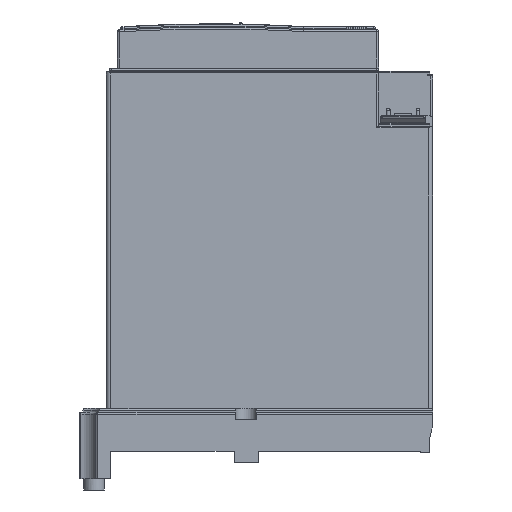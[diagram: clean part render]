
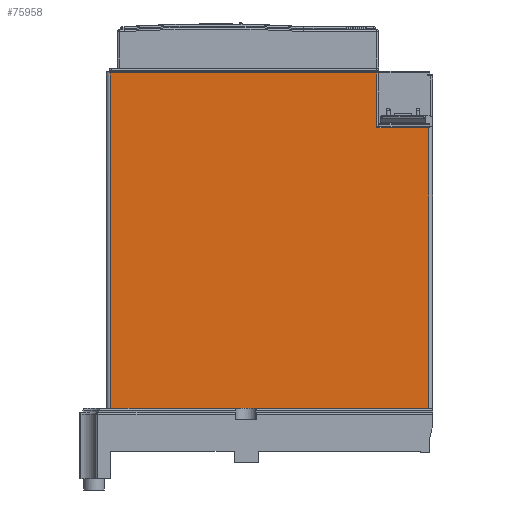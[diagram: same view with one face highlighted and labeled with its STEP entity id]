
A CAD part, left-side view. The second image highlights one B-rep face of the part: STEP entity #75958.
In plain terms, the highlighted planar face has unit normal (-1, 0, 0) as drawn and (0, 0, 1) by its records, which use the part's own axes.
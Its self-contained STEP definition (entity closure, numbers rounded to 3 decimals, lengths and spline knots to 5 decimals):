
#65657=DIRECTION('',(0.,1.,0.));
#65658=VECTOR('',#65657,0.0757);
#65659=CARTESIAN_POINT('',(0.0425,0.,0.045));
#65660=LINE('',#65659,#65658);
#65661=DIRECTION('',(-1.,0.,0.));
#65662=VECTOR('',#65661,0.014);
#65663=CARTESIAN_POINT('',(0.0425,0.0757,0.045));
#65664=LINE('',#65663,#65662);
#65681=CARTESIAN_POINT('',(0.0425,0.0757,0.045));
#65683=DIRECTION('',(-1.,0.,0.));
#65684=VECTOR('',#65683,0.086);
#65685=CARTESIAN_POINT('',(0.0425,0.,0.045));
#65686=LINE('',#65685,#65684);
#65691=DIRECTION('',(-1.,0.,0.));
#65692=VECTOR('',#65691,0.072);
#65693=CARTESIAN_POINT('',(0.0285,0.0905,0.045));
#65694=LINE('',#65693,#65692);
#65821=DIRECTION('',(0.,-1.,0.));
#65822=VECTOR('',#65821,0.0905);
#65823=CARTESIAN_POINT('',(-0.0435,0.0905,0.045));
#65824=LINE('',#65823,#65822);
#66501=DIRECTION('',(0.,1.,0.));
#66502=VECTOR('',#66501,0.0148);
#66503=CARTESIAN_POINT('',(0.0285,0.0757,0.045));
#66504=LINE('',#66503,#66502);
#72581=VERTEX_POINT('',#65681);
#72582=CARTESIAN_POINT('',(0.0425,0.,0.045));
#72583=VERTEX_POINT('',#72582);
#72584=CARTESIAN_POINT('',(0.0285,0.0757,0.045));
#72585=VERTEX_POINT('',#72584);
#72586=CARTESIAN_POINT('',(0.0285,0.0905,0.045));
#72587=CARTESIAN_POINT('',(-0.0435,0.0905,0.045));
#72588=VERTEX_POINT('',#72586);
#72589=VERTEX_POINT('',#72587);
#72590=CARTESIAN_POINT('',(-0.0435,0.,0.045));
#72591=VERTEX_POINT('',#72590);
#75941=CARTESIAN_POINT('',(-0.0445,0.099,0.045));
#75942=DIRECTION('',(0.,0.,-1.));
#75943=DIRECTION('',(-1.,0.,0.));
#75944=AXIS2_PLACEMENT_3D('',#75941,#75942,#75943);
#75945=PLANE('',#75944);
#75947=ORIENTED_EDGE('',*,*,#75946,.F.);
#75949=ORIENTED_EDGE('',*,*,#75948,.F.);
#75950=ORIENTED_EDGE('',*,*,#75930,.F.);
#75951=ORIENTED_EDGE('',*,*,#75920,.F.);
#75953=ORIENTED_EDGE('',*,*,#75952,.T.);
#75955=ORIENTED_EDGE('',*,*,#75954,.F.);
#75956=EDGE_LOOP('',(#75947,#75949,#75950,#75951,#75953,#75955));
#75957=FACE_OUTER_BOUND('',#75956,.F.);
#75958=ADVANCED_FACE('',(#75957),#75945,.F.);
#75920=EDGE_CURVE('',#72583,#72581,#65660,.T.);
#75930=EDGE_CURVE('',#72581,#72585,#65664,.T.);
#75946=EDGE_CURVE('',#72588,#72589,#65694,.T.);
#75948=EDGE_CURVE('',#72585,#72588,#66504,.T.);
#75952=EDGE_CURVE('',#72583,#72591,#65686,.T.);
#75954=EDGE_CURVE('',#72589,#72591,#65824,.T.);
